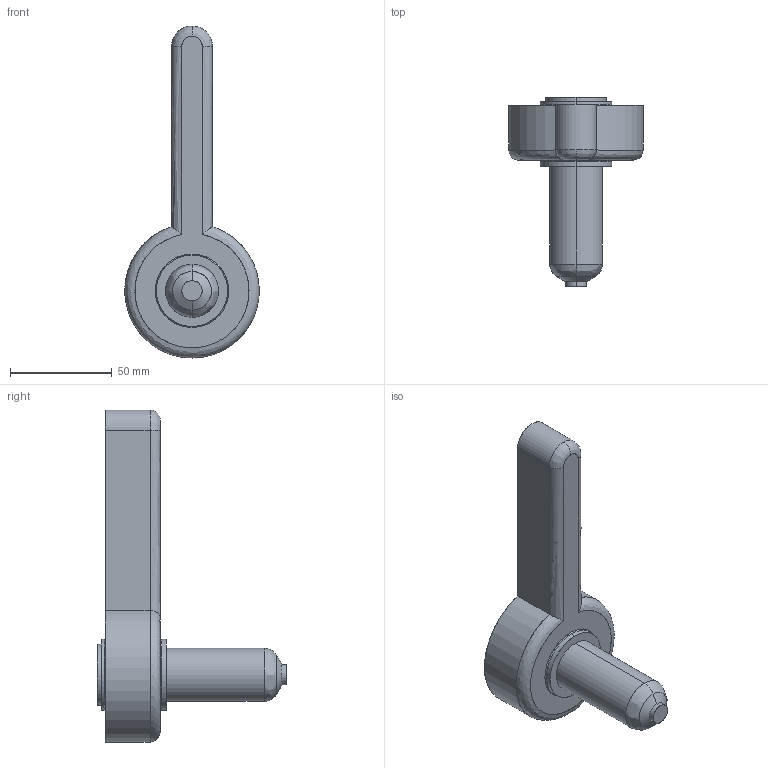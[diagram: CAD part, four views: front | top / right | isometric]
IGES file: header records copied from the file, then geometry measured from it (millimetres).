
Start section: SolidWorks IGES file using analytic representation for surfaces
Global section: file name: C:\Users\luca.EMPAD\Desktop\TEM\Sede UGBE3501-S-A C-59 L-91 P-0.IGS; native system: SolidWorks 2012; preprocessor: SolidWorks 2012; author: luca; date: 120330.142738; units: millimetre
Bounding box: 65.99 x 93.15 x 163 mm (x, y, z)
Surface area: 25480.4 mm2 (no closed solid volume)
Topology: 0 solids, 0 shells, 34 faces, 754 edges, 754 vertices
Faces by surface type: revolution 21, bspline 13
